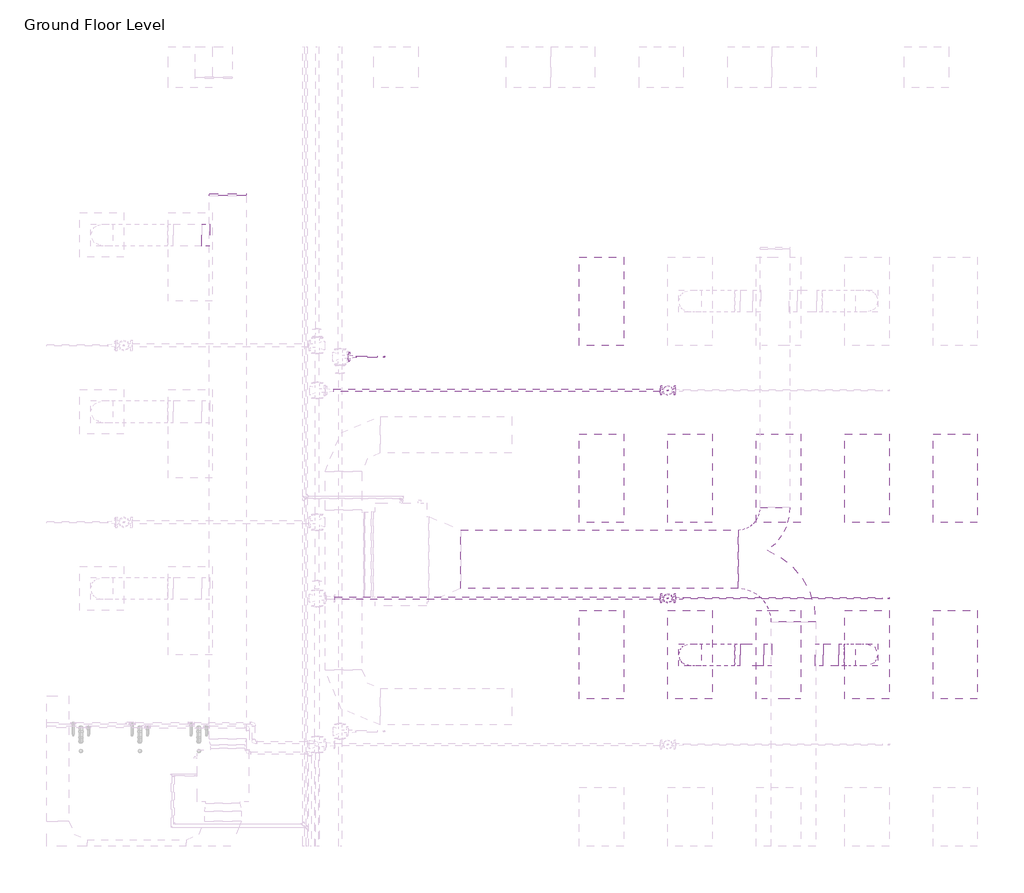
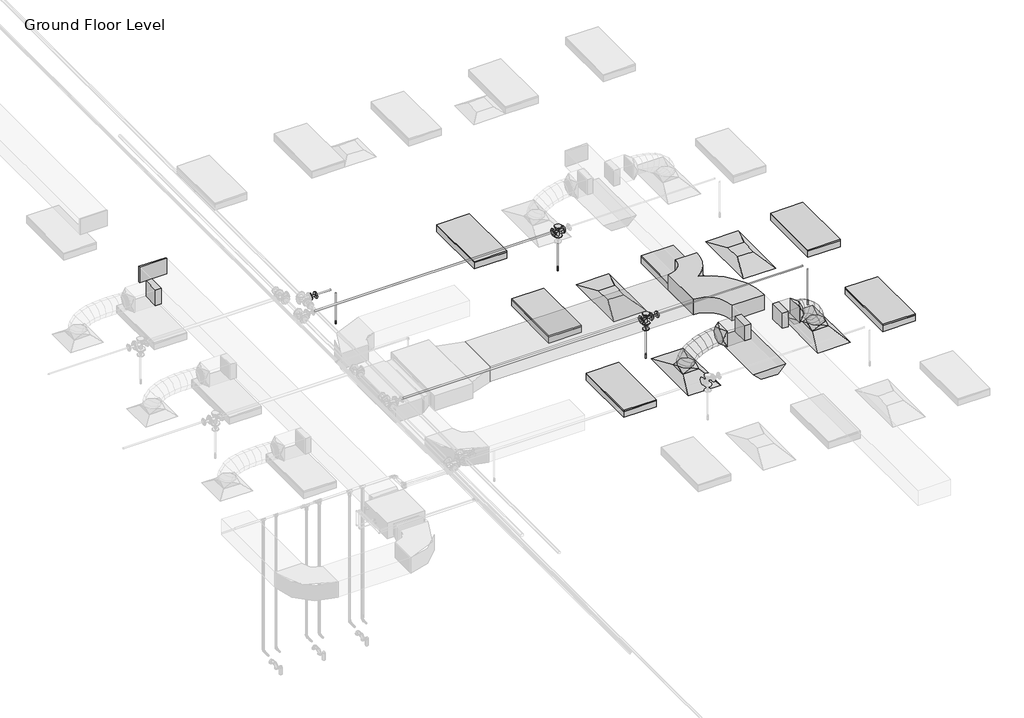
# One storey, part 27 of 74: 9 duct fittings, 8 pipe segments, 7 light fixtures, 5 duct segments, 5 pipe fittings, 4 air terminals, 4 fire suppression terminals.
"""IFC4 building model written with IfcOpenShell, lengths in millimetres."""

from ifc_helpers import new_model, si_unit, point, frame, frame_2d, origin, place, context, project, spatial, polyline, circle_curve, ellipse_curve, trimmed, segment, composite_curve, outline, extrude, transform, mapped, element, save
from ifc_brep_helpers import plane_surface, cylinder_surface, advanced_brep
from components import m_return_diffuser_1200x600_1200_x_600_face_300_x_300_d1983ef6, m_rectangular_endcap_standard_72d4d00d, m_rectangular_takeoff_standard_cb0ccb98, m_rectangular_takeoff_standard_2be5eba1, m_rectangular_wye_curved_transition_standard_4ceeb4da, m_rectangular_to_round_transition_angle_45_degree_641efff0, m_sprinkler_dry_pendent_hosted_15_mm_dry_pendent_9bda8e11, m_sprinkler_pendent_15_mm_pendent_06fcbd8e, m_emergency_recessed_lighting_fixture_600x1200_277_5b10b25d, m_troffer_light_parabolic_rectangular1_0600x1200mm_4_lamp_86473d4a, m_reducer_flanged_cs_class_150_standard_ccf252ad, m_reducer_flanged_cs_class_150_standard_83138b42, m_tee_round_base_flanged_cs_class_150_standard_7e5987a1

model = new_model("IFC4")

# Units and contexts
model_context = context("Model", 3, world=origin())
ifc_project = project(units=[si_unit("LENGTHUNIT", "METRE", prefix="MILLI")], contexts=[model_context])

# Site, building, storey
site = spatial("IfcSite", under=ifc_project)
building = spatial("IfcBuilding", under=site)
storey = spatial("IfcBuildingStorey", under=building, Name="Ground Floor Level", Elevation=900.0)

# Air terminals
placement = place(None, origin())
m_return_diffuser_1200x600_1200_x_600_face_300_x_300_shape = m_return_diffuser_1200x600_1200_x_600_face_300_x_300_d1983ef6(model_context)
element("IfcAirTerminal", 1, ObjectType="M_Return Diffuser 1200x600 : 1200 x 600 Face 300 x 300 Connection", at=placement, inside=storey, context=model_context, shape_type="MappedRepresentation", body=[
    mapped(m_return_diffuser_1200x600_1200_x_600_face_300_x_300_shape, transform((10743.0482736, -20464.7846466, 3650.0), x_axis=(0.0, 1.0, 0.0), y_axis=(-1.0, 0.0, 0.0), z_axis=(0.0, 0.0, 1.0))),
])
element("IfcAirTerminal", 2, ObjectType="M_Return Diffuser 1200x600 : 1200 x 600 Face 300 x 300 Connection", at=placement, inside=storey, context=model_context, shape_type="MappedRepresentation", body=[
    mapped(m_return_diffuser_1200x600_1200_x_600_face_300_x_300_shape, transform((13143.0482736, -20464.7846466, 3650.0), x_axis=(0.0, 1.0, 0.0), y_axis=(-1.0, 0.0, 0.0), z_axis=(0.0, 0.0, 1.0))),
])
element("IfcAirTerminal", 3, ObjectType="M_Supply Diffuser 1200x600 : 1200 x 600 Face 300 x 300 Connection", at=placement, inside=storey, context=model_context, shape_type="MappedRepresentation", body=[
    mapped(m_return_diffuser_1200x600_1200_x_600_face_300_x_300_shape, transform((10743.0482736, -22864.7846466, 3650.0), x_axis=(0.0, 1.0, 0.0), y_axis=(-1.0, 0.0, 0.0), z_axis=(0.0, 0.0, 1.0))),
])
element("IfcAirTerminal", 4, ObjectType="M_Supply Diffuser 1200x600 : 1200 x 600 Face 300 x 300 Connection", at=placement, inside=storey, context=model_context, shape_type="MappedRepresentation", body=[
    mapped(m_return_diffuser_1200x600_1200_x_600_face_300_x_300_shape, transform((13143.0482736, -22864.7846466, 3650.0), x_axis=(0.0, 1.0, 0.0), y_axis=(-1.0, 0.0, 0.0), z_axis=(0.0, 0.0, 1.0))),
])

# Duct fittings
m_rectangular_endcap_standard_shape = m_rectangular_endcap_standard_72d4d00d(model_context)
element("IfcDuctFitting", 5, ObjectType="M_Rectangular Endcap : Standard", at=placement, inside=storey, context=model_context, shape_type="MappedRepresentation", body=[
    mapped(m_rectangular_endcap_standard_shape, transform((4469.1581832, -16631.8627051, 4057.1429453), x_axis=(0.0, 0.999999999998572, -1.6899837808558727e-06), y_axis=(-1.0, 0.0, 0.0), z_axis=(0.0, 1.6899837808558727e-06, 0.999999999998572))),
])
m_rectangular_takeoff_standard_shape = m_rectangular_takeoff_standard_cb0ccb98(model_context)
element("IfcDuctFitting", 6, ObjectType="M_Rectangular Takeoff : Standard", at=placement, inside=storey, context=model_context, shape_type="MappedRepresentation", body=[
    mapped(m_rectangular_takeoff_standard_shape, transform((12447.7826463, -22864.7846466, 4150.0), x_axis=(1.0, 0.0, 0.0), y_axis=(0.0, -1.0, 0.0), z_axis=(0.0, 0.0, -1.0))),
])
element("IfcDuctFitting", 7, ObjectType="M_Rectangular Takeoff : Standard", at=placement, inside=storey, context=model_context, shape_type="MappedRepresentation", body=[
    mapped(m_rectangular_takeoff_standard_shape, transform((4219.1581832, -17164.7846466, 4057.143846), x_axis=(-1.0, 0.0, 0.0), y_axis=(0.0, 1.0, 0.0), z_axis=(0.0, 0.0, -1.0))),
])
m_rectangular_takeoff_standard_2_shape = m_rectangular_takeoff_standard_2be5eba1(model_context)
element("IfcDuctFitting", 8, ObjectType="M_Rectangular Takeoff : Standard", at=placement, inside=storey, context=model_context, shape_type="MappedRepresentation", body=[
    mapped(m_rectangular_takeoff_standard_2_shape, transform((11847.7826463, -22864.7846466, 4150.0), x_axis=(-1.0, 0.0, 0.0), y_axis=(0.0, 1.0, 0.0), z_axis=(0.0, 0.0, -1.0))),
])
m_rectangular_wye_curved_transition_standard_shape = m_rectangular_wye_curved_transition_standard_4ceeb4da(model_context)
element("IfcDuctFitting", 9, ObjectType="M_Rectangular Wye - Curved - Transition : Standard", at=placement, inside=storey, context=model_context, shape_type="MappedRepresentation", body=[
    mapped(m_rectangular_wye_curved_transition_standard_shape, transform((12022.7826463, -21566.5689179, 4150.0003003), x_axis=(0.0, 1.0, 0.0), y_axis=(-0.9999999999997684, 0.0, 6.806625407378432e-07), z_axis=(6.806625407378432e-07, 0.0, 0.9999999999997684))),
])
m_rectangular_to_round_transition_angle_45_degree_shape = m_rectangular_to_round_transition_angle_45_degree_641efff0(model_context)
element("IfcDuctFitting", 10, ObjectType="M_Rectangular to Round Transition - Angle : 45 Degree", at=placement, inside=storey, context=model_context, shape_type="MappedRepresentation", body=[
    mapped(m_rectangular_to_round_transition_angle_45_degree_shape, transform((10743.0482736, -22864.7846466, 3751.6), x_axis=(0.0, 0.0, 1.0), y_axis=(-1.0, 0.0, 0.0), z_axis=(0.0, -1.0, 0.0))),
])
element("IfcDuctFitting", 11, ObjectType="M_Rectangular to Round Transition - Angle : 45 Degree", at=placement, inside=storey, context=model_context, shape_type="MappedRepresentation", body=[
    mapped(m_rectangular_to_round_transition_angle_45_degree_shape, transform((11424.4842049, -22864.7846466, 4150.0), x_axis=(-1.0, 0.0, 0.0), y_axis=(0.0, -1.0, 0.0), z_axis=(0.0, 0.0, 1.0))),
])
element("IfcDuctFitting", 12, ObjectType="M_Rectangular to Round Transition - Angle : 45 Degree", at=placement, inside=storey, context=model_context, shape_type="MappedRepresentation", body=[
    mapped(m_rectangular_to_round_transition_angle_45_degree_shape, transform((13143.0482736, -22864.7846466, 3751.6), x_axis=(0.0, 0.0, 1.0), y_axis=(-1.0, 0.0, 0.0), z_axis=(0.0, -1.0, 0.0))),
])
element("IfcDuctFitting", 13, ObjectType="M_Rectangular to Round Transition - Angle : 45 Degree", at=placement, inside=storey, context=model_context, shape_type="MappedRepresentation", body=[
    mapped(m_rectangular_to_round_transition_angle_45_degree_shape, transform((12761.6125477, -22864.7846466, 4150.0), x_axis=(1.0, 0.0, 0.0), y_axis=(0.0, 1.0, 0.0), z_axis=(0.0, 0.0, 1.0))),
])

# Duct segments
element("IfcDuctSegment", 14, ObjectType="Flex - Round", at=placement, inside=storey, context=model_context, shape_type="AdvancedBrep", body=[
    advanced_brep(
    [(10893.0482736, -22864.7846466, 3826.6), (10743.0482736, -23014.7846466, 3826.6), (10593.0482736, -22864.7846466, 3826.6), (10743.0482736, -22714.7846466, 3826.6), (10893.0482736, -22864.7846466, 3832.4838104), (10743.0482736, -23014.7846466, 3857.3049615), (10593.0482736, -22864.7846466, 3882.1261126), (10743.0482736, -22714.7846466, 3857.3049615), (10895.1777586, -22864.7846466, 3838.7421096), (10759.7096782, -23014.7846466, 3906.2708192), (10624.2415979, -22864.7846466, 3973.7995287), (10759.7096782, -22714.7846466, 3906.2708192), (10917.1997864, -22864.7846466, 3871.1472855), (10805.5876959, -23014.7846466, 3973.7798261), (10693.9756053, -22864.7846466, 4076.4123668), (10805.5876959, -22714.7846466, 3973.7798261), (10957.142511, -22864.7846466, 3903.4915826), (10874.5230324, -23014.7846466, 4029.6013814), (10791.9035539, -22864.7846466, 4155.7111802), (10874.5230324, -22714.7846466, 4029.6013814), (11020.0646936, -22864.7846466, 3936.1928758), (10960.3563938, -23014.7846466, 4074.2098454), (10900.6480941, -22864.7846466, 4212.226815), (10960.3563938, -22714.7846466, 4074.2098454), (11098.9170855, -22864.7846466, 3963.8479616), (11056.9284859, -23014.7846466, 4108.0795788), (11014.9398863, -22864.7846466, 4252.311196), (11056.9284859, -22714.7846466, 4108.0795788), (11185.4890682, -22864.7846466, 3984.0509494), (11158.0800145, -23014.7846466, 4131.684942), (11130.6709609, -22864.7846466, 4279.3189347), (11158.0800145, -22714.7846466, 4131.684942), (11271.9732516, -22864.7846466, 3996.0504424), (11257.6516856, -23014.7846466, 4145.5002956), (11243.3301196, -22864.7846466, 4294.9501488), (11257.6516856, -22714.7846466, 4145.5002956), (11346.1345531, -22864.7846466, 4000.0), (11342.1431577, -23014.7846466, 4150.0), (11338.1517622, -22864.7846466, 4300.0), (11342.1431577, -22714.7846466, 4150.0), (11349.4842049, -22864.7846466, 4000.0), (11349.4842049, -22714.7846466, 4150.0), (11349.4842049, -22864.7846466, 4300.0), (11349.4842049, -23014.7846466, 4150.0)],
    [
        (0, 1, circle_curve(frame((10743.0482736, -22864.7846466, 3826.6), z_axis=(0.0, 0.0, -1.0), x_axis=(1.0, 0.0, 0.0)), 150.0)),
        (1, 2, circle_curve(frame((10743.0482736, -22864.7846466, 3826.6), z_axis=(0.0, 0.0, -1.0), x_axis=(1.0, 0.0, 0.0)), 150.0)),
        (2, 3, circle_curve(frame((10743.0482736, -22864.7846466, 3826.6), z_axis=(0.0, 0.0, -1.0), x_axis=(1.0, 0.0, 0.0)), 150.0)),
        (3, 0, circle_curve(frame((10743.0482736, -22864.7846466, 3826.6), z_axis=(0.0, 0.0, -1.0), x_axis=(1.0, 0.0, 0.0)), 150.0)),
        (0, 4),
        (4, 5, ellipse_curve(frame((10743.0482736, -22864.7846466, 3857.3049615), z_axis=(-0.1632543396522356, 0.0, -0.9865840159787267), x_axis=(0.9865840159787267, 0.0, -0.16325433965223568)), 152.039763, 150.0)),
        (5, 1),
        (5, 6, ellipse_curve(frame((10743.0482736, -22864.7846466, 3857.3049615), z_axis=(-0.1632543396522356, 0.0, -0.9865840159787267), x_axis=(0.9865840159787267, 0.0, -0.16325433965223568)), 152.039763, 150.0)),
        (6, 2),
        (6, 7, ellipse_curve(frame((10743.0482736, -22864.7846466, 3857.3049615), z_axis=(-0.1632543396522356, 0.0, -0.9865840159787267), x_axis=(0.9865840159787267, 0.0, -0.16325433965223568)), 152.039763, 150.0)),
        (7, 3),
        (7, 4, ellipse_curve(frame((10743.0482736, -22864.7846466, 3857.3049615), z_axis=(-0.1632543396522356, 0.0, -0.9865840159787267), x_axis=(0.9865840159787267, 0.0, -0.16325433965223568)), 152.039763, 150.0)),
        (4, 8),
        (8, 9, ellipse_curve(frame((10759.7096782, -22864.7846466, 3906.2708192), z_axis=(-0.4461280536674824, 0.0, -0.8949691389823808), x_axis=(0.8949691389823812, 0.0, -0.44612805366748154)), 151.366203, 150.0)),
        (9, 5),
        (9, 10, ellipse_curve(frame((10759.7096782, -22864.7846466, 3906.2708192), z_axis=(-0.4461280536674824, 0.0, -0.8949691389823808), x_axis=(0.8949691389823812, 0.0, -0.44612805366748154)), 151.366203, 150.0)),
        (10, 6),
        (10, 11, ellipse_curve(frame((10759.7096782, -22864.7846466, 3906.2708192), z_axis=(-0.4461280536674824, 0.0, -0.8949691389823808), x_axis=(0.8949691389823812, 0.0, -0.44612805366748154)), 151.366203, 150.0)),
        (11, 7),
        (11, 8, ellipse_curve(frame((10759.7096782, -22864.7846466, 3906.2708192), z_axis=(-0.4461280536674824, 0.0, -0.8949691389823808), x_axis=(0.8949691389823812, 0.0, -0.44612805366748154)), 151.366203, 150.0)),
        (8, 12),
        (12, 13, ellipse_curve(frame((10805.5876959, -22864.7846466, 3973.7798261), z_axis=(-0.6768758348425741, 0.0, -0.7360972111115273), x_axis=(0.7360972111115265, 0.0, -0.6768758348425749)), 151.6268352, 150.0)),
        (13, 9),
        (13, 14, ellipse_curve(frame((10805.5876959, -22864.7846466, 3973.7798261), z_axis=(-0.6768758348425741, 0.0, -0.7360972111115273), x_axis=(0.7360972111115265, 0.0, -0.6768758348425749)), 151.6268352, 150.0)),
        (14, 10),
        (14, 15, ellipse_curve(frame((10805.5876959, -22864.7846466, 3973.7798261), z_axis=(-0.6768758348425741, 0.0, -0.7360972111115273), x_axis=(0.7360972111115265, 0.0, -0.6768758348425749)), 151.6268352, 150.0)),
        (15, 11),
        (15, 12, ellipse_curve(frame((10805.5876959, -22864.7846466, 3973.7798261), z_axis=(-0.6768758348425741, 0.0, -0.7360972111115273), x_axis=(0.7360972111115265, 0.0, -0.6768758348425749)), 151.6268352, 150.0)),
        (12, 16),
        (16, 17, ellipse_curve(frame((10874.5230324, -22864.7846466, 4029.6013814), z_axis=(-0.8364738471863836, 0.0, -0.5480068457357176), x_axis=(0.5480068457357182, 0.0, -0.8364738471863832)), 150.7635884, 150.0)),
        (17, 13),
        (17, 18, ellipse_curve(frame((10874.5230324, -22864.7846466, 4029.6013814), z_axis=(-0.8364738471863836, 0.0, -0.5480068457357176), x_axis=(0.5480068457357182, 0.0, -0.8364738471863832)), 150.7635884, 150.0)),
        (18, 14),
        (18, 19, ellipse_curve(frame((10874.5230324, -22864.7846466, 4029.6013814), z_axis=(-0.8364738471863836, 0.0, -0.5480068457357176), x_axis=(0.5480068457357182, 0.0, -0.8364738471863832)), 150.7635884, 150.0)),
        (19, 15),
        (19, 16, ellipse_curve(frame((10874.5230324, -22864.7846466, 4029.6013814), z_axis=(-0.8364738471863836, 0.0, -0.5480068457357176), x_axis=(0.5480068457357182, 0.0, -0.8364738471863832)), 150.7635884, 150.0)),
        (16, 20),
        (20, 21, ellipse_curve(frame((10960.3563938, -22864.7846466, 4074.2098454), z_axis=(-0.9177957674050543, 0.0, -0.3970528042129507), x_axis=(0.3970528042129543, 0.0, -0.9177957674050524)), 150.3787384, 150.0)),
        (21, 17),
        (21, 22, ellipse_curve(frame((10960.3563938, -22864.7846466, 4074.2098454), z_axis=(-0.9177957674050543, 0.0, -0.3970528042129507), x_axis=(0.3970528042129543, 0.0, -0.9177957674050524)), 150.3787384, 150.0)),
        (22, 18),
        (22, 23, ellipse_curve(frame((10960.3563938, -22864.7846466, 4074.2098454), z_axis=(-0.9177957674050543, 0.0, -0.3970528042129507), x_axis=(0.3970528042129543, 0.0, -0.9177957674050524)), 150.3787384, 150.0)),
        (23, 19),
        (23, 20, ellipse_curve(frame((10960.3563938, -22864.7846466, 4074.2098454), z_axis=(-0.9177957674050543, 0.0, -0.3970528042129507), x_axis=(0.3970528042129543, 0.0, -0.9177957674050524)), 150.3787384, 150.0)),
        (20, 24),
        (24, 25, ellipse_curve(frame((11056.9284859, -22864.7846466, 4108.0795788), z_axis=(-0.9601411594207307, 0.0, -0.27951557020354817), x_axis=(0.2795155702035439, 0.0, -0.9601411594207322)), 150.2191795, 150.0)),
        (25, 21),
        (25, 26, ellipse_curve(frame((11056.9284859, -22864.7846466, 4108.0795788), z_axis=(-0.9601411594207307, 0.0, -0.27951557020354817), x_axis=(0.2795155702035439, 0.0, -0.9601411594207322)), 150.2191795, 150.0)),
        (26, 22),
        (26, 27, ellipse_curve(frame((11056.9284859, -22864.7846466, 4108.0795788), z_axis=(-0.9601411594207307, 0.0, -0.27951557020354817), x_axis=(0.2795155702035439, 0.0, -0.9601411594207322)), 150.2191795, 150.0)),
        (27, 23),
        (27, 24, ellipse_curve(frame((11056.9284859, -22864.7846466, 4108.0795788), z_axis=(-0.9601411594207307, 0.0, -0.27951557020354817), x_axis=(0.2795155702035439, 0.0, -0.9601411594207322)), 150.2191795, 150.0)),
        (24, 28),
        (28, 29, ellipse_curve(frame((11158.0800145, -22864.7846466, 4131.684942), z_axis=(-0.9831991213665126, 0.0, -0.1825362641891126), x_axis=(0.18253626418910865, 0.0, -0.9831991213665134)), 150.1567581, 150.0)),
        (29, 25),
        (29, 30, ellipse_curve(frame((11158.0800145, -22864.7846466, 4131.684942), z_axis=(-0.9831991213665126, 0.0, -0.1825362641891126), x_axis=(0.18253626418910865, 0.0, -0.9831991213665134)), 150.1567581, 150.0)),
        (30, 26),
        (30, 31, ellipse_curve(frame((11158.0800145, -22864.7846466, 4131.684942), z_axis=(-0.9831991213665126, 0.0, -0.1825362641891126), x_axis=(0.18253626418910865, 0.0, -0.9831991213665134)), 150.1567581, 150.0)),
        (31, 27),
        (31, 28, ellipse_curve(frame((11158.0800145, -22864.7846466, 4131.684942), z_axis=(-0.9831991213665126, 0.0, -0.1825362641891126), x_axis=(0.18253626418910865, 0.0, -0.9831991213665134)), 150.1567581, 150.0)),
        (28, 32),
        (32, 33, ellipse_curve(frame((11257.6516856, -22864.7846466, 4145.5002956), z_axis=(-0.9954398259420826, 0.0, -0.09539157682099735), x_axis=(0.09539157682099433, 0.0, -0.9954398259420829)), 150.1344926, 150.0)),
        (33, 29),
        (33, 34, ellipse_curve(frame((11257.6516856, -22864.7846466, 4145.5002956), z_axis=(-0.9954398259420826, 0.0, -0.09539157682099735), x_axis=(0.09539157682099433, 0.0, -0.9954398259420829)), 150.1344926, 150.0)),
        (34, 30),
        (34, 35, ellipse_curve(frame((11257.6516856, -22864.7846466, 4145.5002956), z_axis=(-0.9954398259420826, 0.0, -0.09539157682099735), x_axis=(0.09539157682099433, 0.0, -0.9954398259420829)), 150.1344926, 150.0)),
        (35, 31),
        (35, 32, ellipse_curve(frame((11257.6516856, -22864.7846466, 4145.5002956), z_axis=(-0.9954398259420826, 0.0, -0.09539157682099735), x_axis=(0.09539157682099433, 0.0, -0.9954398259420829)), 150.1344926, 150.0)),
        (32, 36),
        (36, 37, ellipse_curve(frame((11342.1431577, -22864.7846466, 4150.0), z_axis=(-0.9996461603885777, 0.0, -0.02659988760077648), x_axis=(0.026599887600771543, 0.0, -0.9996461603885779)), 150.0530947, 150.0)),
        (37, 33),
        (37, 38, ellipse_curve(frame((11342.1431577, -22864.7846466, 4150.0), z_axis=(-0.9996461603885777, 0.0, -0.02659988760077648), x_axis=(0.026599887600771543, 0.0, -0.9996461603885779)), 150.0530947, 150.0)),
        (38, 34),
        (38, 39, ellipse_curve(frame((11342.1431577, -22864.7846466, 4150.0), z_axis=(-0.9996461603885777, 0.0, -0.02659988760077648), x_axis=(0.026599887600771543, 0.0, -0.9996461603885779)), 150.0530947, 150.0)),
        (39, 35),
        (39, 36, ellipse_curve(frame((11342.1431577, -22864.7846466, 4150.0), z_axis=(-0.9996461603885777, 0.0, -0.02659988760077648), x_axis=(0.026599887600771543, 0.0, -0.9996461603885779)), 150.0530947, 150.0)),
        (40, 41, circle_curve(frame((11349.4842049, -22864.7846466, 4150.0), z_axis=(1.0, 0.0, 0.0), x_axis=(0.0, 0.0, -1.0)), 150.0)),
        (41, 42, circle_curve(frame((11349.4842049, -22864.7846466, 4150.0), z_axis=(1.0, 0.0, 0.0), x_axis=(0.0, 0.0, -1.0)), 150.0)),
        (42, 43, circle_curve(frame((11349.4842049, -22864.7846466, 4150.0), z_axis=(1.0, 0.0, 0.0), x_axis=(0.0, 0.0, -1.0)), 150.0)),
        (43, 40, circle_curve(frame((11349.4842049, -22864.7846466, 4150.0), z_axis=(1.0, 0.0, 0.0), x_axis=(0.0, 0.0, -1.0)), 150.0)),
        (36, 40),
        (43, 37),
        (42, 38),
        (41, 39),
    ],
    [
        plane_surface(frame((10743.0482736, -23014.7846466, 3826.6), z_axis=(0.0, 0.0, -1.0), x_axis=(1.0, 0.0, 0.0))),
        cylinder_surface(frame((10743.0482736, -22864.7846466, 3826.6), z_axis=(0.0, 0.0, -1.0), x_axis=(1.0, 0.0, 0.0)), 150.0),
        cylinder_surface(frame((10743.0482736, -22864.7846466, 3857.3049615), z_axis=(-0.32212824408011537, 0.0, -0.946696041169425), x_axis=(0.946696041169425, 0.0, -0.32212824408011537)), 150.0),
        cylinder_surface(frame((10759.7096782, -22864.7846466, 3906.2708192), z_axis=(-0.5620745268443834, 0.0, -0.827086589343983), x_axis=(0.827086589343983, 0.0, -0.5620745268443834)), 150.0),
        cylinder_surface(frame((10805.5876959, -22864.7846466, 3973.7798261), z_axis=(-0.7771524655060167, 0.0, -0.6293123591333), x_axis=(0.6293123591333, 0.0, -0.7771524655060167)), 150.0),
        cylinder_surface(frame((10874.5230324, -22864.7846466, 4029.6013814), z_axis=(-0.8873220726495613, 0.0, -0.4611502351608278), x_axis=(0.4611502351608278, 0.0, -0.8873220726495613)), 150.0),
        cylinder_surface(frame((10960.3563938, -22864.7846466, 4074.2098454), z_axis=(-0.9436464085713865, 0.0, -0.33095536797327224), x_axis=(0.33095536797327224, 0.0, -0.9436464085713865)), 150.0),
        cylinder_surface(frame((11056.9284859, -22864.7846466, 4108.0795788), z_axis=(-0.9738340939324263, 0.0, -0.22726010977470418), x_axis=(0.22726010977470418, 0.0, -0.9738340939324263)), 150.0),
        cylinder_surface(frame((11158.0800145, -22864.7846466, 4131.684942), z_axis=(-0.9905113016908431, 0.0, -0.13743129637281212), x_axis=(0.13743129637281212, 0.0, -0.9905113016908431)), 150.0),
        cylinder_surface(frame((11257.6516856, -22864.7846466, 4145.5002956), z_axis=(-0.9985848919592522, 0.0, -0.05318095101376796), x_axis=(0.05318095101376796, 0.0, -0.9985848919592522)), 150.0),
        plane_surface(frame((11349.4842049, -22864.7846466, 4000.0), z_axis=(1.0, 0.0, 0.0), x_axis=(0.0, 1.0, 0.0))),
        cylinder_surface(frame((11342.1431577, -22864.7846466, 4150.0), z_axis=(-1.0, 0.0, 0.0), x_axis=(0.0, 0.0, -1.0)), 150.0),
    ],
    [
        (0, [[1, 2, 3, 4]]),
        (1, [[-1, 5, 6, 7]]),
        (1, [[-2, -7, 8, 9]]),
        (1, [[-3, -9, 10, 11]]),
        (1, [[-4, -11, 12, -5]]),
        (2, [[-6, 13, 14, 15]]),
        (2, [[-8, -15, 16, 17]]),
        (2, [[-10, -17, 18, 19]]),
        (2, [[-12, -19, 20, -13]]),
        (3, [[-14, 21, 22, 23]]),
        (3, [[-16, -23, 24, 25]]),
        (3, [[-18, -25, 26, 27]]),
        (3, [[-20, -27, 28, -21]]),
        (4, [[-22, 29, 30, 31]]),
        (4, [[-24, -31, 32, 33]]),
        (4, [[-26, -33, 34, 35]]),
        (4, [[-28, -35, 36, -29]]),
        (5, [[-30, 37, 38, 39]]),
        (5, [[-32, -39, 40, 41]]),
        (5, [[-34, -41, 42, 43]]),
        (5, [[-36, -43, 44, -37]]),
        (6, [[-38, 45, 46, 47]]),
        (6, [[-40, -47, 48, 49]]),
        (6, [[-42, -49, 50, 51]]),
        (6, [[-44, -51, 52, -45]]),
        (7, [[-46, 53, 54, 55]]),
        (7, [[-48, -55, 56, 57]]),
        (7, [[-50, -57, 58, 59]]),
        (7, [[-52, -59, 60, -53]]),
        (8, [[-54, 61, 62, 63]]),
        (8, [[-56, -63, 64, 65]]),
        (8, [[-58, -65, 66, 67]]),
        (8, [[-60, -67, 68, -61]]),
        (9, [[-62, 69, 70, 71]]),
        (9, [[-64, -71, 72, 73]]),
        (9, [[-66, -73, 74, 75]]),
        (9, [[-68, -75, 76, -69]]),
        (10, [[77, 78, 79, 80]]),
        (11, [[-70, 81, -80, 82]]),
        (11, [[-72, -82, -79, 83]]),
        (11, [[-74, -83, -78, 84]]),
        (11, [[-76, -84, -77, -81]]),
    ],
),
])
element("IfcDuctSegment", 15, ObjectType="Flex - Round", at=placement, inside=storey, context=model_context, shape_type="AdvancedBrep", body=[
    advanced_brep(
    [(13293.0482736, -22864.7846466, 3826.6), (13143.0482736, -23014.7846466, 3826.6), (12993.0482736, -22864.7846466, 3826.6), (13143.0482736, -22714.7846466, 3826.6), (13293.0482736, -22864.7846466, 3876.0801412), (13143.0482736, -23014.7846466, 3855.2056612), (12993.0482736, -22864.7846466, 3834.3311813), (13143.0482736, -22714.7846466, 3855.2056612), (13265.1827485, -22864.7846466, 3974.2593667), (13125.4356823, -23014.7846466, 3917.2604967), (12985.6886161, -22864.7846466, 3860.2616267), (13125.4356823, -22714.7846466, 3917.2604967), (13200.641408, -22864.7846466, 4092.9658971), (13077.9530706, -23014.7846466, 4004.5920588), (12955.2647333, -22864.7846466, 3916.2182204), (13077.9530706, -22714.7846466, 4004.5920588), (13104.7566275, -22864.7846466, 4195.7964222), (13008.633182, -23014.7846466, 4078.9333725), (12912.5097364, -22864.7846466, 3962.0703229), (13008.633182, -22714.7846466, 4078.9333725), (12990.1102871, -22864.7846466, 4267.0876349), (12925.5087598, -23014.7846466, 4130.6231242), (12860.9072326, -22864.7846466, 3994.1586134), (12925.5087598, -22714.7846466, 4130.6231242), (12893.3776503, -22864.7846466, 4300.0), (12868.5582402, -23014.7846466, 4150.0), (12843.7388301, -22864.7846466, 4000.0), (12868.5582402, -22714.7846466, 4150.0), (12836.6125477, -22864.7846466, 4300.0), (12836.6125477, -23014.7846466, 4150.0), (12836.6125477, -22864.7846466, 4000.0), (12836.6125477, -22714.7846466, 4150.0)],
    [
        (0, 1, circle_curve(frame((13143.0482736, -22864.7846466, 3826.6), z_axis=(0.0, 0.0, -1.0), x_axis=(1.0, 0.0, 0.0)), 150.0)),
        (1, 2, circle_curve(frame((13143.0482736, -22864.7846466, 3826.6), z_axis=(0.0, 0.0, -1.0), x_axis=(1.0, 0.0, 0.0)), 150.0)),
        (2, 3, circle_curve(frame((13143.0482736, -22864.7846466, 3826.6), z_axis=(0.0, 0.0, -1.0), x_axis=(1.0, 0.0, 0.0)), 150.0)),
        (3, 0, circle_curve(frame((13143.0482736, -22864.7846466, 3826.6), z_axis=(0.0, 0.0, -1.0), x_axis=(1.0, 0.0, 0.0)), 150.0)),
        (0, 4),
        (4, 5, ellipse_curve(frame((13143.0482736, -22864.7846466, 3855.2056612), z_axis=(0.13783491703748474, 0.0, -0.9904552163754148), x_axis=(-0.9904552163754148, 0.0, -0.13783491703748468)), 151.4455147, 150.0)),
        (5, 1),
        (5, 6, ellipse_curve(frame((13143.0482736, -22864.7846466, 3855.2056612), z_axis=(0.13783491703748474, 0.0, -0.9904552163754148), x_axis=(-0.9904552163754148, 0.0, -0.13783491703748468)), 151.4455147, 150.0)),
        (6, 2),
        (6, 7, ellipse_curve(frame((13143.0482736, -22864.7846466, 3855.2056612), z_axis=(0.13783491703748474, 0.0, -0.9904552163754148), x_axis=(-0.9904552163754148, 0.0, -0.13783491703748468)), 151.4455147, 150.0)),
        (7, 3),
        (7, 4, ellipse_curve(frame((13143.0482736, -22864.7846466, 3855.2056612), z_axis=(0.13783491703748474, 0.0, -0.9904552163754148), x_axis=(-0.9904552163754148, 0.0, -0.13783491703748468)), 151.4455147, 150.0)),
        (4, 8),
        (8, 9, ellipse_curve(frame((13125.4356823, -22864.7846466, 3917.2604967), z_axis=(0.3776655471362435, 0.0, -0.9259420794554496), x_axis=(-0.9259420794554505, 0.0, -0.3776655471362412)), 150.9241985, 150.0)),
        (9, 5),
        (9, 10, ellipse_curve(frame((13125.4356823, -22864.7846466, 3917.2604967), z_axis=(0.3776655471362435, 0.0, -0.9259420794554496), x_axis=(-0.9259420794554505, 0.0, -0.3776655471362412)), 150.9241985, 150.0)),
        (10, 6),
        (10, 11, ellipse_curve(frame((13125.4356823, -22864.7846466, 3917.2604967), z_axis=(0.3776655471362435, 0.0, -0.9259420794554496), x_axis=(-0.9259420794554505, 0.0, -0.3776655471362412)), 150.9241985, 150.0)),
        (11, 7),
        (11, 8, ellipse_curve(frame((13125.4356823, -22864.7846466, 3917.2604967), z_axis=(0.3776655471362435, 0.0, -0.9259420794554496), x_axis=(-0.9259420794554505, 0.0, -0.3776655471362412)), 150.9241985, 150.0)),
        (8, 12),
        (12, 13, ellipse_curve(frame((13077.9530706, -22864.7846466, 4004.5920588), z_axis=(0.5844712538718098, 0.0, -0.8114144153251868), x_axis=(-0.8114144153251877, 0.0, -0.5844712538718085)), 151.2030536, 150.0)),
        (13, 9),
        (13, 14, ellipse_curve(frame((13077.9530706, -22864.7846466, 4004.5920588), z_axis=(0.5844712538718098, 0.0, -0.8114144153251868), x_axis=(-0.8114144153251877, 0.0, -0.5844712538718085)), 151.2030536, 150.0)),
        (14, 10),
        (14, 15, ellipse_curve(frame((13077.9530706, -22864.7846466, 4004.5920588), z_axis=(0.5844712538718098, 0.0, -0.8114144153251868), x_axis=(-0.8114144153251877, 0.0, -0.5844712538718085)), 151.2030536, 150.0)),
        (15, 11),
        (15, 12, ellipse_curve(frame((13077.9530706, -22864.7846466, 4004.5920588), z_axis=(0.5844712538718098, 0.0, -0.8114144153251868), x_axis=(-0.8114144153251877, 0.0, -0.5844712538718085)), 151.2030536, 150.0)),
        (12, 16),
        (16, 17, ellipse_curve(frame((13008.633182, -22864.7846466, 4078.9333725), z_axis=(0.7723086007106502, 0.0, -0.6352475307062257), x_axis=(-0.6352475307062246, 0.0, -0.7723086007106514)), 151.3165198, 150.0)),
        (17, 13),
        (17, 18, ellipse_curve(frame((13008.633182, -22864.7846466, 4078.9333725), z_axis=(0.7723086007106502, 0.0, -0.6352475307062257), x_axis=(-0.6352475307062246, 0.0, -0.7723086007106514)), 151.3165198, 150.0)),
        (18, 14),
        (18, 19, ellipse_curve(frame((13008.633182, -22864.7846466, 4078.9333725), z_axis=(0.7723086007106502, 0.0, -0.6352475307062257), x_axis=(-0.6352475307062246, 0.0, -0.7723086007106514)), 151.3165198, 150.0)),
        (19, 15),
        (19, 16, ellipse_curve(frame((13008.633182, -22864.7846466, 4078.9333725), z_axis=(0.7723086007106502, 0.0, -0.6352475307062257), x_axis=(-0.6352475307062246, 0.0, -0.7723086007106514)), 151.3165198, 150.0)),
        (16, 20),
        (20, 21, ellipse_curve(frame((12925.5087598, -22864.7846466, 4130.6231242), z_axis=(0.9038391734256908, 0.0, -0.4278723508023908), x_axis=(-0.4278723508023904, 0.0, -0.903839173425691)), 150.983178, 150.0)),
        (21, 17),
        (21, 22, ellipse_curve(frame((12925.5087598, -22864.7846466, 4130.6231242), z_axis=(0.9038391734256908, 0.0, -0.4278723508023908), x_axis=(-0.4278723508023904, 0.0, -0.903839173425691)), 150.983178, 150.0)),
        (22, 18),
        (22, 23, ellipse_curve(frame((12925.5087598, -22864.7846466, 4130.6231242), z_axis=(0.9038391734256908, 0.0, -0.4278723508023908), x_axis=(-0.4278723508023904, 0.0, -0.903839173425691)), 150.983178, 150.0)),
        (23, 19),
        (23, 20, ellipse_curve(frame((12925.5087598, -22864.7846466, 4130.6231242), z_axis=(0.9038391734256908, 0.0, -0.4278723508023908), x_axis=(-0.4278723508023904, 0.0, -0.903839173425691)), 150.983178, 150.0)),
        (20, 24),
        (24, 25, ellipse_curve(frame((12868.5582402, -22864.7846466, 4150.0), z_axis=(0.9865858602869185, 0.0, -0.16324319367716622), x_axis=(-0.16324319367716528, 0.0, -0.9865858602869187)), 152.0394788, 150.0)),
        (25, 21),
        (25, 26, ellipse_curve(frame((12868.5582402, -22864.7846466, 4150.0), z_axis=(0.9865858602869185, 0.0, -0.16324319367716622), x_axis=(-0.16324319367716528, 0.0, -0.9865858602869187)), 152.0394788, 150.0)),
        (26, 22),
        (26, 27, ellipse_curve(frame((12868.5582402, -22864.7846466, 4150.0), z_axis=(0.9865858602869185, 0.0, -0.16324319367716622), x_axis=(-0.16324319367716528, 0.0, -0.9865858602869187)), 152.0394788, 150.0)),
        (27, 23),
        (27, 24, ellipse_curve(frame((12868.5582402, -22864.7846466, 4150.0), z_axis=(0.9865858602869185, 0.0, -0.16324319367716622), x_axis=(-0.16324319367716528, 0.0, -0.9865858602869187)), 152.0394788, 150.0)),
        (24, 28),
        (28, 29, circle_curve(frame((12836.6125477, -22864.7846466, 4150.0), z_axis=(1.0, 0.0, 0.0), x_axis=(0.0, 0.0, 1.0)), 150.0)),
        (29, 25),
        (29, 30, circle_curve(frame((12836.6125477, -22864.7846466, 4150.0), z_axis=(1.0, 0.0, 0.0), x_axis=(0.0, 0.0, 1.0)), 150.0)),
        (30, 26),
        (30, 31, circle_curve(frame((12836.6125477, -22864.7846466, 4150.0), z_axis=(1.0, 0.0, 0.0), x_axis=(0.0, 0.0, 1.0)), 150.0)),
        (31, 27),
        (31, 28, circle_curve(frame((12836.6125477, -22864.7846466, 4150.0), z_axis=(1.0, 0.0, 0.0), x_axis=(0.0, 0.0, 1.0)), 150.0)),
    ],
    [
        plane_surface(frame((13143.0482736, -23014.7846466, 3826.6), z_axis=(0.0, 0.0, -1.0), x_axis=(1.0, 0.0, 0.0))),
        cylinder_surface(frame((13143.0482736, -22864.7846466, 3826.6), z_axis=(0.0, 0.0, -1.0), x_axis=(1.0, 0.0, 0.0)), 150.0),
        cylinder_surface(frame((13143.0482736, -22864.7846466, 3855.2056612), z_axis=(0.2730386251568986, 0.0, -0.9620030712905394), x_axis=(0.9620030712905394, 0.0, 0.2730386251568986)), 150.0),
        cylinder_surface(frame((13125.4356823, -22864.7846466, 3917.2604967), z_axis=(0.4776671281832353, 0.0, -0.8785409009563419), x_axis=(0.8785409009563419, 0.0, 0.4776671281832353)), 150.0),
        cylinder_surface(frame((13077.9530706, -22864.7846466, 4004.5920588), z_axis=(0.6819746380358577, 0.0, -0.73137582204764), x_axis=(0.73137582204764, 0.0, 0.6819746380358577)), 150.0),
        cylinder_surface(frame((13008.633182, -22864.7846466, 4078.9333725), z_axis=(0.8492037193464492, 0.0, -0.5280653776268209), x_axis=(0.5280653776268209, 0.0, 0.8492037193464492)), 150.0),
        cylinder_surface(frame((12925.5087598, -22864.7846466, 4130.6231242), z_axis=(0.9467033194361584, 0.0, -0.3221068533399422), x_axis=(0.3221068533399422, 0.0, 0.9467033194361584)), 150.0),
        cylinder_surface(frame((12868.5582402, -22864.7846466, 4150.0), z_axis=(1.0, 0.0, 0.0), x_axis=(0.0, 0.0, 1.0)), 150.0),
        plane_surface(frame((12836.6125477, -22864.7846466, 4000.0), z_axis=(-1.0, 0.0, 0.0), x_axis=(0.0, -1.0, 0.0))),
    ],
    [
        (0, [[1, 2, 3, 4]]),
        (1, [[-1, 5, 6, 7]]),
        (1, [[-2, -7, 8, 9]]),
        (1, [[-3, -9, 10, 11]]),
        (1, [[-4, -11, 12, -5]]),
        (2, [[-6, 13, 14, 15]]),
        (2, [[-8, -15, 16, 17]]),
        (2, [[-10, -17, 18, 19]]),
        (2, [[-12, -19, 20, -13]]),
        (3, [[-14, 21, 22, 23]]),
        (3, [[-16, -23, 24, 25]]),
        (3, [[-18, -25, 26, 27]]),
        (3, [[-20, -27, 28, -21]]),
        (4, [[-22, 29, 30, 31]]),
        (4, [[-24, -31, 32, 33]]),
        (4, [[-26, -33, 34, 35]]),
        (4, [[-28, -35, 36, -29]]),
        (5, [[-30, 37, 38, 39]]),
        (5, [[-32, -39, 40, 41]]),
        (5, [[-34, -41, 42, 43]]),
        (5, [[-36, -43, 44, -37]]),
        (6, [[-38, 45, 46, 47]]),
        (6, [[-40, -47, 48, 49]]),
        (6, [[-42, -49, 50, 51]]),
        (6, [[-44, -51, 52, -45]]),
        (7, [[-46, 53, 54, 55]]),
        (7, [[-48, -55, 56, 57]]),
        (7, [[-50, -57, 58, 59]]),
        (7, [[-52, -59, 60, -53]]),
        (8, [[-60, -58, -56, -54]]),
    ],
),
])
element("IfcDuctSegment", 16, ObjectType="Radius Elbows / Taps", at=placement, inside=storey, context=model_context, shape_type="SweptSolid", body=[
    extrude(outline(polyline([(7632.7177312, -21966.5689179), (7632.7177312, -21166.5689179), (11394.6076463, -21166.5689179), (11394.6076463, -21966.5689179), (7632.7177312, -21966.5689179)])), frame((0.0, 0.0, 4000.0007279), z_axis=(0.0, 0.0, 1.0), x_axis=(1.0, 0.0, 0.0)), (0.0, 0.0, 1.0), 300.0),
])
element("IfcDuctSegment", 17, ObjectType="Radius Elbows / Taps", at=placement, inside=storey, context=model_context, shape_type="SweptSolid", body=[
    extrude(outline(polyline([(11746.1826463, -22714.7846466), (11746.1826463, -23014.7846466), (11424.4842049, -23014.7846466), (11424.4842049, -22714.7846466), (11746.1826463, -22714.7846466)])), frame((0.0, 0.0, 4000.0), z_axis=(0.0, 0.0, 1.0), x_axis=(1.0, 0.0, 0.0)), (0.0, 0.0, 1.0), 300.0),
])
element("IfcDuctSegment", 18, ObjectType="Radius Elbows / Taps", at=placement, inside=storey, context=model_context, shape_type="SweptSolid", body=[
    extrude(outline(polyline([(12549.3826463, -23014.7846466), (12549.3826463, -22714.7846466), (12761.6125477, -22714.7846466), (12761.6125477, -23014.7846466), (12549.3826463, -23014.7846466)])), frame((0.0, 0.0, 4000.0), z_axis=(0.0, 0.0, 1.0), x_axis=(1.0, 0.0, 0.0)), (0.0, 0.0, 1.0), 300.0),
])

# Fire suppression terminals
m_sprinkler_dry_pendent_hosted_15_mm_dry_pendent_shape = m_sprinkler_dry_pendent_hosted_15_mm_dry_pendent_9bda8e11(model_context)
element("IfcFireSuppressionTerminal", 19, ObjectType="M_Sprinkler - Dry - Pendent - Hosted : 15 mm Dry Pendent", at=placement, inside=storey, context=model_context, shape_type="MappedRepresentation", body=[
    mapped(m_sprinkler_dry_pendent_hosted_15_mm_dry_pendent_shape, transform((10443.0482736, -19275.8856124, 3650.0), x_axis=(1.0, 0.0, 0.0), y_axis=(0.0, -1.0, 0.0), z_axis=(0.0, 0.0, -1.0))),
])
element("IfcFireSuppressionTerminal", 20, ObjectType="M_Sprinkler - Dry - Pendent - Hosted : 15 mm Dry Pendent", at=placement, inside=storey, context=model_context, shape_type="MappedRepresentation", body=[
    mapped(m_sprinkler_dry_pendent_hosted_15_mm_dry_pendent_shape, transform((10443.0482736, -22098.0287346, 3650.0), x_axis=(1.0, 0.0, 0.0), y_axis=(0.0, -1.0, 0.0), z_axis=(0.0, 0.0, -1.0))),
])
element("IfcFireSuppressionTerminal", 21, ObjectType="M_Sprinkler - Dry - Pendent - Hosted : 15 mm Dry Pendent", at=placement, inside=storey, context=model_context, shape_type="MappedRepresentation", body=[
    mapped(m_sprinkler_dry_pendent_hosted_15_mm_dry_pendent_shape, transform((13443.0482736, -22098.0287346, 3650.0), x_axis=(1.0, 0.0, 0.0), y_axis=(0.0, -1.0, 0.0), z_axis=(0.0, 0.0, -1.0))),
])
m_sprinkler_pendent_15_mm_pendent_shape = m_sprinkler_pendent_15_mm_pendent_06fcbd8e(model_context)
element("IfcFireSuppressionTerminal", 22, ObjectType="M_Sprinkler - Pendent : 15 mm Pendent", at=placement, inside=storey, context=model_context, shape_type="MappedRepresentation", body=[
    mapped(m_sprinkler_pendent_15_mm_pendent_shape, transform((6592.5481019, -18818.869914, 3650.0), x_axis=(1.0, 0.0, 0.0), y_axis=(0.0, 1.0, 0.0), z_axis=(0.0, 0.0, 1.0))),
])

# Light fixtures
m_emergency_recessed_lighting_fixture_600x1200_277_shape = m_emergency_recessed_lighting_fixture_600x1200_277_5b10b25d(model_context)
element("IfcLightFixture", 23, ObjectType="M_Emergency Recessed Lighting Fixture : 600x1200 - 277", at=placement, inside=storey, context=model_context, shape_type="MappedRepresentation", body=[
    mapped(m_emergency_recessed_lighting_fixture_600x1200_277_shape, transform((11643.0482736, -23464.7846466, 3650.0), x_axis=(0.0, 1.0, 0.0), y_axis=(-1.0, 0.0, 0.0), z_axis=(0.0, 0.0, 1.0))),
])
m_troffer_light_parabolic_rectangular1_0600x1200mm_4_lamp_shape = m_troffer_light_parabolic_rectangular1_0600x1200mm_4_lamp_86473d4a(model_context)
element("IfcLightFixture", 24, ObjectType="M_Troffer Light - Parabolic Rectangular1 : 0600x1200mm(4 Lamp) - 277V 2", at=placement, inside=storey, context=model_context, shape_type="MappedRepresentation", body=[
    mapped(m_troffer_light_parabolic_rectangular1_0600x1200mm_4_lamp_shape, transform((9483.5823415, -18046.081145, 3650.0), x_axis=(0.0, 1.0, 0.0), y_axis=(-1.0, 0.0, 0.0), z_axis=(0.0, 0.0, 1.0))),
])
element("IfcLightFixture", 25, ObjectType="M_Troffer Light - Parabolic Rectangular1 : 0600x1200mm(4 Lamp) - 277V 2", at=placement, inside=storey, context=model_context, shape_type="MappedRepresentation", body=[
    mapped(m_troffer_light_parabolic_rectangular1_0600x1200mm_4_lamp_shape, transform((9483.5823415, -20446.081145, 3650.0), x_axis=(0.0, 1.0, 0.0), y_axis=(-1.0, 0.0, 0.0), z_axis=(0.0, 0.0, 1.0))),
])
element("IfcLightFixture", 26, ObjectType="M_Troffer Light - Parabolic Rectangular1 : 0600x1200mm(4 Lamp) - 277V 2", at=placement, inside=storey, context=model_context, shape_type="MappedRepresentation", body=[
    mapped(m_troffer_light_parabolic_rectangular1_0600x1200mm_4_lamp_shape, transform((11883.5823415, -20446.081145, 3650.0), x_axis=(0.0, 1.0, 0.0), y_axis=(-1.0, 0.0, 0.0), z_axis=(0.0, 0.0, 1.0))),
])
element("IfcLightFixture", 27, ObjectType="M_Troffer Light - Parabolic Rectangular1 : 0600x1200mm(4 Lamp) - 277V 2", at=placement, inside=storey, context=model_context, shape_type="MappedRepresentation", body=[
    mapped(m_troffer_light_parabolic_rectangular1_0600x1200mm_4_lamp_shape, transform((14283.5823415, -20446.081145, 3650.0), x_axis=(0.0, 1.0, 0.0), y_axis=(-1.0, 0.0, 0.0), z_axis=(0.0, 0.0, 1.0))),
])
element("IfcLightFixture", 28, ObjectType="M_Troffer Light - Parabolic Rectangular1 : 0600x1200mm(4 Lamp) - 277V 2", at=placement, inside=storey, context=model_context, shape_type="MappedRepresentation", body=[
    mapped(m_troffer_light_parabolic_rectangular1_0600x1200mm_4_lamp_shape, transform((9483.5823415, -22846.081145, 3650.0), x_axis=(0.0, 1.0, 0.0), y_axis=(-1.0, 0.0, 0.0), z_axis=(0.0, 0.0, 1.0))),
])
element("IfcLightFixture", 29, ObjectType="M_Troffer Light - Parabolic Rectangular1 : 0600x1200mm(4 Lamp) - 277V 2", at=placement, inside=storey, context=model_context, shape_type="MappedRepresentation", body=[
    mapped(m_troffer_light_parabolic_rectangular1_0600x1200mm_4_lamp_shape, transform((14283.5823415, -22846.081145, 3650.0), x_axis=(0.0, 1.0, 0.0), y_axis=(-1.0, 0.0, 0.0), z_axis=(0.0, 0.0, 1.0))),
])

# Pipe fittings
m_reducer_flanged_cs_class_150_standard_shape = m_reducer_flanged_cs_class_150_standard_ccf252ad(model_context)
element("IfcPipeFitting", 30, ObjectType="M_Reducer - Flanged - CS - Class 150 : Standard", at=placement, inside=storey, context=model_context, shape_type="MappedRepresentation", body=[
    mapped(m_reducer_flanged_cs_class_150_standard_shape, transform((10543.7568674, -22098.0287346, 4347.5), x_axis=(1.0, 0.0, 0.0), y_axis=(0.0, 0.0, 1.0), z_axis=(0.0, -1.0, 0.0))),
])
element("IfcPipeFitting", 31, ObjectType="M_Reducer - Flanged - CS - Class 150 : Standard", at=placement, inside=storey, context=model_context, shape_type="MappedRepresentation", body=[
    mapped(m_reducer_flanged_cs_class_150_standard_shape, transform((10443.0482736, -22098.0287346, 4246.7914063), x_axis=(0.0, 0.0, -1.0), y_axis=(-1.0, 0.0, 0.0), z_axis=(0.0, 1.0, 0.0))),
])
m_reducer_flanged_cs_class_150_standard_2_shape = m_reducer_flanged_cs_class_150_standard_83138b42(model_context)
element("IfcPipeFitting", 32, ObjectType="M_Reducer - Flanged - CS - Class 150 : Standard", at=placement, inside=storey, context=model_context, shape_type="MappedRepresentation", body=[
    mapped(m_reducer_flanged_cs_class_150_standard_2_shape, transform((6109.3164057, -18818.869914, 4291.2754753), x_axis=(1.0, 0.0, 0.0), y_axis=(0.0, 0.0, -1.0), z_axis=(0.0, 1.0, 0.0))),
])
m_tee_round_base_flanged_cs_class_150_standard_shape = m_tee_round_base_flanged_cs_class_150_standard_7e5987a1(model_context)
element("IfcPipeFitting", 33, ObjectType="M_Tee Round Base - Flanged - CS - Class 150 : Standard", at=placement, inside=storey, context=model_context, shape_type="MappedRepresentation", body=[
    mapped(m_tee_round_base_flanged_cs_class_150_standard_shape, transform((10443.0482736, -22098.0287346, 4347.5), x_axis=(1.0, 0.0, 0.0), y_axis=(0.0, 0.0, 1.0), z_axis=(0.0, -1.0, 0.0))),
])
element("IfcPipeFitting", 34, ObjectType="M_Tee Round Base - Flanged - CS - Class 150 : Standard", at=placement, inside=storey, context=model_context, shape_type="MappedRepresentation", body=[
    mapped(m_tee_round_base_flanged_cs_class_150_standard_shape, transform((10443.0482736, -19275.8856124, 4347.5), x_axis=(1.0, 0.0, 0.0), y_axis=(0.0, 0.0, 1.0), z_axis=(0.0, -1.0, 0.0))),
])

# Pipe segments
element("IfcPipeSegment", 35, ObjectType="Steel flanged", at=placement, inside=storey, context=model_context, shape_type="SweptSolid", body=[
    extrude(outline(composite_curve([segment(trimmed(circle_curve(frame_2d((6592.5481019, -18818.869914)), 10.668), [point((6581.8801019, -18818.869914))], [point((6592.5481019, -18808.201914))], False, "CARTESIAN"), True, "CONTINUOUS"), segment(trimmed(circle_curve(frame_2d((6592.5481019, -18818.869914)), 10.668), [point((6592.5481019, -18808.201914))], [point((6603.2161019, -18818.869914))], False, "CARTESIAN"), True, "CONTINUOUS"), segment(trimmed(circle_curve(frame_2d((6592.5481019, -18818.869914)), 10.668), [point((6603.2161019, -18818.869914))], [point((6592.5481019, -18829.537914))], False, "CARTESIAN"), True, "CONTINUOUS"), segment(trimmed(circle_curve(frame_2d((6592.5481019, -18818.869914)), 10.668), [point((6592.5481019, -18829.537914))], [point((6581.8801019, -18818.869914))], False, "CARTESIAN"), True, "CONTINUOUS")], self_intersect=False)), frame((0.0, 0.0, 3650.0), z_axis=(0.0, 0.0, 1.0), x_axis=(1.0, 0.0, 0.0)), (0.0, 0.0, 1.0), 548.2668816),
])
element("IfcPipeSegment", 36, ObjectType="Steel flanged", at=placement, inside=storey, context=model_context, shape_type="SweptSolid", body=[
    extrude(outline(composite_curve([segment(trimmed(circle_curve(frame_2d((-18818.869914, 4291.2754753)), 10.668), [point((-18808.201914, 4291.2754753))], [point((-18818.869914, 4280.6074753))], False, "CARTESIAN"), True, "CONTINUOUS"), segment(trimmed(circle_curve(frame_2d((-18818.869914, 4291.2754753)), 10.668), [point((-18818.869914, 4280.6074753))], [point((-18829.537914, 4291.2754753))], False, "CARTESIAN"), True, "CONTINUOUS"), segment(trimmed(circle_curve(frame_2d((-18818.869914, 4291.2754753)), 10.668), [point((-18829.537914, 4291.2754753))], [point((-18818.869914, 4301.9434753))], False, "CARTESIAN"), True, "CONTINUOUS"), segment(trimmed(circle_curve(frame_2d((-18818.869914, 4291.2754753)), 10.668), [point((-18818.869914, 4301.9434753))], [point((-18808.201914, 4291.2754753))], False, "CARTESIAN"), True, "CONTINUOUS")], self_intersect=False)), frame((6223.3164057, 0.0, 0.0), z_axis=(1.0, 0.0, 0.0), x_axis=(0.0, 1.0, 0.0)), (0.0, 0.0, 1.0), 276.2231025),
])
element("IfcPipeSegment", 37, ObjectType="Steel flanged", at=placement, inside=storey, context=model_context, shape_type="SweptSolid", body=[
    extrude(outline(composite_curve([segment(trimmed(circle_curve(frame_2d((13443.0482736, -22098.0287346)), 10.668), [point((13432.3802736, -22098.0287346))], [point((13443.0482736, -22087.3607346))], False, "CARTESIAN"), True, "CONTINUOUS"), segment(trimmed(circle_curve(frame_2d((13443.0482736, -22098.0287346)), 10.668), [point((13443.0482736, -22087.3607346))], [point((13453.7162736, -22098.0287346))], False, "CARTESIAN"), True, "CONTINUOUS"), segment(trimmed(circle_curve(frame_2d((13443.0482736, -22098.0287346)), 10.668), [point((13453.7162736, -22098.0287346))], [point((13443.0482736, -22108.6967346))], False, "CARTESIAN"), True, "CONTINUOUS"), segment(trimmed(circle_curve(frame_2d((13443.0482736, -22098.0287346)), 10.668), [point((13443.0482736, -22108.6967346))], [point((13432.3802736, -22098.0287346))], False, "CARTESIAN"), True, "CONTINUOUS")], self_intersect=False)), frame((0.0, 0.0, 3650.0), z_axis=(0.0, 0.0, 1.0), x_axis=(1.0, 0.0, 0.0)), (0.0, 0.0, 1.0), 604.4914062),
])
element("IfcPipeSegment", 38, ObjectType="Steel flanged", at=placement, inside=storey, context=model_context, shape_type="SweptSolid", body=[
    extrude(outline(composite_curve([segment(trimmed(circle_curve(frame_2d((10443.0482736, -22098.0287346)), 10.668), [point((10432.3802736, -22098.0287346))], [point((10443.0482736, -22087.3607346))], False, "CARTESIAN"), True, "CONTINUOUS"), segment(trimmed(circle_curve(frame_2d((10443.0482736, -22098.0287346)), 10.668), [point((10443.0482736, -22087.3607346))], [point((10453.7162736, -22098.0287346))], False, "CARTESIAN"), True, "CONTINUOUS"), segment(trimmed(circle_curve(frame_2d((10443.0482736, -22098.0287346)), 10.668), [point((10453.7162736, -22098.0287346))], [point((10443.0482736, -22108.6967346))], False, "CARTESIAN"), True, "CONTINUOUS"), segment(trimmed(circle_curve(frame_2d((10443.0482736, -22098.0287346)), 10.668), [point((10443.0482736, -22108.6967346))], [point((10432.3802736, -22098.0287346))], False, "CARTESIAN"), True, "CONTINUOUS")], self_intersect=False)), frame((0.0, 0.0, 3650.0), z_axis=(0.0, 0.0, 1.0), x_axis=(1.0, 0.0, 0.0)), (0.0, 0.0, 1.0), 482.7914062),
])
element("IfcPipeSegment", 39, ObjectType="Steel flanged", at=placement, inside=storey, context=model_context, shape_type="SweptSolid", body=[
    extrude(outline(composite_curve([segment(trimmed(circle_curve(frame_2d((-22098.0287346, 4347.5)), 16.7005), [point((-22081.3282346, 4347.5))], [point((-22098.0287346, 4330.7995))], False, "CARTESIAN"), True, "CONTINUOUS"), segment(trimmed(circle_curve(frame_2d((-22098.0287346, 4347.5)), 16.7005), [point((-22098.0287346, 4330.7995))], [point((-22114.7292346, 4347.5))], False, "CARTESIAN"), True, "CONTINUOUS"), segment(trimmed(circle_curve(frame_2d((-22098.0287346, 4347.5)), 16.7005), [point((-22114.7292346, 4347.5))], [point((-22098.0287346, 4364.2005))], False, "CARTESIAN"), True, "CONTINUOUS"), segment(trimmed(circle_curve(frame_2d((-22098.0287346, 4347.5)), 16.7005), [point((-22098.0287346, 4364.2005))], [point((-22081.3282346, 4347.5))], False, "CARTESIAN"), True, "CONTINUOUS")], self_intersect=False)), frame((5925.6174894, 0.0, 0.0), z_axis=(1.0, 0.0, 0.0), x_axis=(0.0, 1.0, 0.0)), (0.0, 0.0, 1.0), 4416.7221905),
])
element("IfcPipeSegment", 40, ObjectType="Steel flanged", at=placement, inside=storey, context=model_context, shape_type="SweptSolid", body=[
    extrude(outline(composite_curve([segment(trimmed(circle_curve(frame_2d((-22098.0287346, 4347.5)), 10.668), [point((-22087.3607346, 4347.5))], [point((-22098.0287346, 4336.832))], False, "CARTESIAN"), True, "CONTINUOUS"), segment(trimmed(circle_curve(frame_2d((-22098.0287346, 4347.5)), 10.668), [point((-22098.0287346, 4336.832))], [point((-22108.6967346, 4347.5))], False, "CARTESIAN"), True, "CONTINUOUS"), segment(trimmed(circle_curve(frame_2d((-22098.0287346, 4347.5)), 10.668), [point((-22108.6967346, 4347.5))], [point((-22098.0287346, 4358.168))], False, "CARTESIAN"), True, "CONTINUOUS"), segment(trimmed(circle_curve(frame_2d((-22098.0287346, 4347.5)), 10.668), [point((-22098.0287346, 4358.168))], [point((-22087.3607346, 4347.5))], False, "CARTESIAN"), True, "CONTINUOUS")], self_intersect=False)), frame((10657.7568674, 0.0, 0.0), z_axis=(1.0, 0.0, 0.0), x_axis=(0.0, 1.0, 0.0)), (0.0, 0.0, 1.0), 2692.2828125),
])
element("IfcPipeSegment", 41, ObjectType="Steel flanged", at=placement, inside=storey, context=model_context, shape_type="SweptSolid", body=[
    extrude(outline(composite_curve([segment(trimmed(circle_curve(frame_2d((10443.0482736, -19275.8856124)), 10.668), [point((10432.3802736, -19275.8856124))], [point((10443.0482736, -19265.2176124))], False, "CARTESIAN"), True, "CONTINUOUS"), segment(trimmed(circle_curve(frame_2d((10443.0482736, -19275.8856124)), 10.668), [point((10443.0482736, -19265.2176124))], [point((10453.7162736, -19275.8856124))], False, "CARTESIAN"), True, "CONTINUOUS"), segment(trimmed(circle_curve(frame_2d((10443.0482736, -19275.8856124)), 10.668), [point((10453.7162736, -19275.8856124))], [point((10443.0482736, -19286.5536124))], False, "CARTESIAN"), True, "CONTINUOUS"), segment(trimmed(circle_curve(frame_2d((10443.0482736, -19275.8856124)), 10.668), [point((10443.0482736, -19286.5536124))], [point((10432.3802736, -19275.8856124))], False, "CARTESIAN"), True, "CONTINUOUS")], self_intersect=False)), frame((0.0, 0.0, 3650.0), z_axis=(0.0, 0.0, 1.0), x_axis=(1.0, 0.0, 0.0)), (0.0, 0.0, 1.0), 482.7914062),
])
element("IfcPipeSegment", 42, ObjectType="Steel flanged", at=placement, inside=storey, context=model_context, shape_type="SweptSolid", body=[
    extrude(outline(composite_curve([segment(trimmed(circle_curve(frame_2d((-19275.8856124, 4347.5)), 16.7005), [point((-19259.1851124, 4347.5))], [point((-19275.8856124, 4330.7995))], False, "CARTESIAN"), True, "CONTINUOUS"), segment(trimmed(circle_curve(frame_2d((-19275.8856124, 4347.5)), 16.7005), [point((-19275.8856124, 4330.7995))], [point((-19292.5861124, 4347.5))], False, "CARTESIAN"), True, "CONTINUOUS"), segment(trimmed(circle_curve(frame_2d((-19275.8856124, 4347.5)), 16.7005), [point((-19292.5861124, 4347.5))], [point((-19275.8856124, 4364.2005))], False, "CARTESIAN"), True, "CONTINUOUS"), segment(trimmed(circle_curve(frame_2d((-19275.8856124, 4347.5)), 16.7005), [point((-19275.8856124, 4364.2005))], [point((-19259.1851124, 4347.5))], False, "CARTESIAN"), True, "CONTINUOUS")], self_intersect=False)), frame((5910.8760832, 0.0, 0.0), z_axis=(1.0, 0.0, 0.0), x_axis=(0.0, 1.0, 0.0)), (0.0, 0.0, 1.0), 4431.4635967),
])

save(model, "model.ifc")
